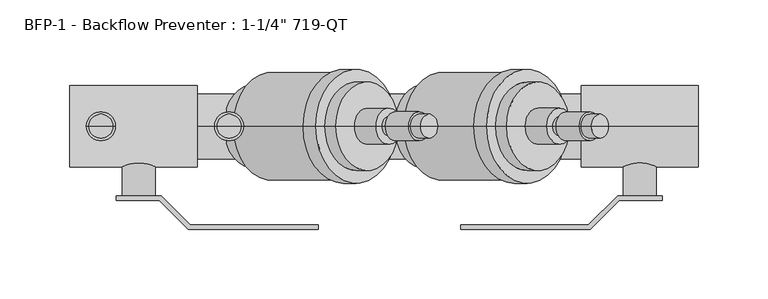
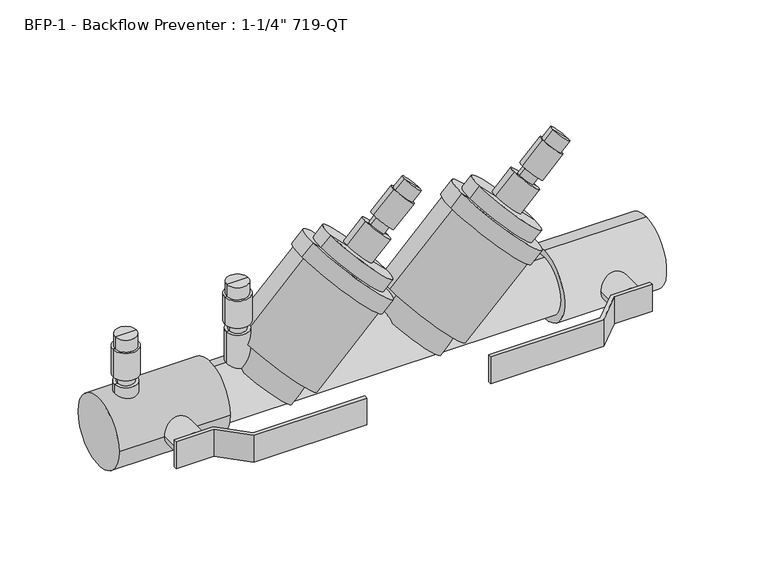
"""IFC4 building model written with IfcOpenShell, lengths in millimetres: valve geometry."""

from ifc_helpers import new_model, si_unit, point, frame, origin, origin_2d, place, context, project, spatial, polyline, circle_curve, trimmed, segment, composite_curve, outline, extrude, source, transform, mapped, element, save
from ifc_brep_helpers import plane_surface, cylinder_surface, advanced_brep


def valve_a7637290(model_context):
    return source(origin(), model_context, "Body", "SolidModel", [
        advanced_brep(
        [(386.2401701, 0.0, 119.9762218), (374.0270218, 0.0, 132.1893701), (380.1335959, 0.0, 126.0827959), (378.8763601, 0.0, 112.6124118), (366.6632118, 0.0, 124.8255601), (380.1335959, 0.0, 111.3551759), (365.4059759, 0.0, 126.0827959), (363.4303196, 0.0, 94.6518995), (348.7026995, 0.0, 109.3795196), (360.9158478, 0.0, 97.1663712), (351.2171712, 0.0, 106.8650478), (356.0665095, 0.0, 92.3170329), (346.3678329, 0.0, 102.0157095), (360.3770325, 0.0, 88.00651), (342.05731, 0.0, 106.3262325), (344.9309919, 0.0, 72.5604695), (326.6112695, 0.0, 90.8801919), (358.221771, 0.0, 59.2696904), (313.3204904, 0.0, 104.170971), (350.3191456, 0.0, 51.367065), (305.417865, 0.0, 96.2683456), (356.78493, 0.0, 44.9012806), (298.9520806, 0.0, 102.73413), (347.6250688, 0.0, 35.7414194), (289.7922194, 0.0, 93.5742688), (346.0086227, 0.0, 37.3578655), (291.4086655, 0.0, 91.9578227), (294.2823474, 0.0, -14.3684098), (239.6823902, 0.0, 40.2315474), (288.1757733, 0.0, -8.2618356), (245.7889644, 0.0, 34.1249733), (275.2442044, 0.0, -21.1934044), (232.8573956, 0.0, 21.1934044), (254.0508, 0.0, 0.0)],
        [
            (0, 1, circle_curve(frame((380.1335959, 0.0, 126.0827959), z_axis=(0.7071067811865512, 0.0, 0.7071067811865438), x_axis=(-0.7071067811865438, 0.0, 0.7071067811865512)), 8.636)),
            (1, 2),
            (2, 0),
            (1, 0, circle_curve(frame((380.1335959, 0.0, 126.0827959), z_axis=(0.7071067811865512, 0.0, 0.7071067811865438), x_axis=(-0.7071067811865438, 0.0, 0.7071067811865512)), 8.636)),
            (3, 4, circle_curve(frame((372.7697859, 0.0, 118.7189859), z_axis=(0.7071067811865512, 0.0, 0.7071067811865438), x_axis=(-0.7071067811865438, 0.0, 0.7071067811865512)), 8.636)),
            (4, 1),
            (0, 3),
            (4, 3, circle_curve(frame((372.7697859, 0.0, 118.7189859), z_axis=(0.7071067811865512, 0.0, 0.7071067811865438), x_axis=(-0.7071067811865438, 0.0, 0.7071067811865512)), 8.636)),
            (5, 6, circle_curve(frame((372.7697859, 0.0, 118.7189859), z_axis=(0.7071067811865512, 0.0, 0.7071067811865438), x_axis=(-0.7071067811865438, 0.0, 0.7071067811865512)), 10.414)),
            (6, 4),
            (3, 5),
            (6, 5, circle_curve(frame((372.7697859, 0.0, 118.7189859), z_axis=(0.7071067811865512, 0.0, 0.7071067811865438), x_axis=(-0.7071067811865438, 0.0, 0.7071067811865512)), 10.414)),
            (7, 8, circle_curve(frame((356.0665095, 0.0, 102.0157095), z_axis=(0.7071067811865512, 0.0, 0.7071067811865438), x_axis=(-0.7071067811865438, 0.0, 0.7071067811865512)), 10.414)),
            (8, 6),
            (5, 7),
            (8, 7, circle_curve(frame((356.0665095, 0.0, 102.0157095), z_axis=(0.7071067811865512, 0.0, 0.7071067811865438), x_axis=(-0.7071067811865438, 0.0, 0.7071067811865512)), 10.414)),
            (9, 10, circle_curve(frame((356.0665095, 0.0, 102.0157095), z_axis=(0.7071067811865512, 0.0, 0.7071067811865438), x_axis=(-0.7071067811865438, 0.0, 0.7071067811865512)), 6.858)),
            (10, 8),
            (7, 9),
            (10, 9, circle_curve(frame((356.0665095, 0.0, 102.0157095), z_axis=(0.7071067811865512, 0.0, 0.7071067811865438), x_axis=(-0.7071067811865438, 0.0, 0.7071067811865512)), 6.858)),
            (11, 12, circle_curve(frame((351.2171712, 0.0, 97.1663712), z_axis=(0.7071067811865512, 0.0, 0.7071067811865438), x_axis=(-0.7071067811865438, 0.0, 0.7071067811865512)), 6.858)),
            (12, 10),
            (9, 11),
            (12, 11, circle_curve(frame((351.2171712, 0.0, 97.1663712), z_axis=(0.7071067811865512, 0.0, 0.7071067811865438), x_axis=(-0.7071067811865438, 0.0, 0.7071067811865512)), 6.858)),
            (13, 14, circle_curve(frame((351.2171712, 0.0, 97.1663712), z_axis=(0.7071067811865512, 0.0, 0.7071067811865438), x_axis=(-0.7071067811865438, 0.0, 0.7071067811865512)), 12.954)),
            (14, 12),
            (11, 13),
            (14, 13, circle_curve(frame((351.2171712, 0.0, 97.1663712), z_axis=(0.7071067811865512, 0.0, 0.7071067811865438), x_axis=(-0.7071067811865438, 0.0, 0.7071067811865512)), 12.954)),
            (15, 16, circle_curve(frame((335.7711307, 0.0, 81.7203307), z_axis=(0.7071067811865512, 0.0, 0.7071067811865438), x_axis=(-0.7071067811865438, 0.0, 0.7071067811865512)), 12.954)),
            (16, 14),
            (13, 15),
            (16, 15, circle_curve(frame((335.7711307, 0.0, 81.7203307), z_axis=(0.7071067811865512, 0.0, 0.7071067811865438), x_axis=(-0.7071067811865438, 0.0, 0.7071067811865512)), 12.954)),
            (17, 18, circle_curve(frame((335.7711307, 0.0, 81.7203307), z_axis=(0.7071067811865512, 0.0, 0.7071067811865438), x_axis=(-0.7071067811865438, 0.0, 0.7071067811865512)), 31.75)),
            (18, 16),
            (15, 17),
            (18, 17, circle_curve(frame((335.7711307, 0.0, 81.7203307), z_axis=(0.7071067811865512, 0.0, 0.7071067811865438), x_axis=(-0.7071067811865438, 0.0, 0.7071067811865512)), 31.75)),
            (19, 20, circle_curve(frame((327.8685053, 0.0, 73.8177053), z_axis=(0.7071067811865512, 0.0, 0.7071067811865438), x_axis=(-0.7071067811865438, 0.0, 0.7071067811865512)), 31.75)),
            (20, 18),
            (17, 19),
            (20, 19, circle_curve(frame((327.8685053, 0.0, 73.8177053), z_axis=(0.7071067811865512, 0.0, 0.7071067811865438), x_axis=(-0.7071067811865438, 0.0, 0.7071067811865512)), 31.75)),
            (21, 22, circle_curve(frame((327.8685053, 0.0, 73.8177053), z_axis=(0.7071067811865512, 0.0, 0.7071067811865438), x_axis=(-0.7071067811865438, 0.0, 0.7071067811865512)), 40.894)),
            (22, 20),
            (19, 21),
            (22, 21, circle_curve(frame((327.8685053, 0.0, 73.8177053), z_axis=(0.7071067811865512, 0.0, 0.7071067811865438), x_axis=(-0.7071067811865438, 0.0, 0.7071067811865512)), 40.894)),
            (23, 24, circle_curve(frame((318.7086441, 0.0, 64.6578441), z_axis=(0.7071067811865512, 0.0, 0.7071067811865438), x_axis=(-0.7071067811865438, 0.0, 0.7071067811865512)), 40.894)),
            (24, 22),
            (21, 23),
            (24, 23, circle_curve(frame((318.7086441, 0.0, 64.6578441), z_axis=(0.7071067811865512, 0.0, 0.7071067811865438), x_axis=(-0.7071067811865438, 0.0, 0.7071067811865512)), 40.894)),
            (25, 26, circle_curve(frame((318.7086441, 0.0, 64.6578441), z_axis=(0.7071067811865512, 0.0, 0.7071067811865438), x_axis=(-0.7071067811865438, 0.0, 0.7071067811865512)), 38.608)),
            (26, 24),
            (23, 25),
            (26, 25, circle_curve(frame((318.7086441, 0.0, 64.6578441), z_axis=(0.7071067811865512, 0.0, 0.7071067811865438), x_axis=(-0.7071067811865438, 0.0, 0.7071067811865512)), 38.608)),
            (27, 28, circle_curve(frame((266.9823688, 0.0, 12.9315688), z_axis=(0.7071067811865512, 0.0, 0.7071067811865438), x_axis=(-0.7071067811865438, 0.0, 0.7071067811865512)), 38.608)),
            (28, 26),
            (25, 27),
            (28, 27, circle_curve(frame((266.9823688, 0.0, 12.9315688), z_axis=(0.7071067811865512, 0.0, 0.7071067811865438), x_axis=(-0.7071067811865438, 0.0, 0.7071067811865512)), 38.608)),
            (29, 30, circle_curve(frame((266.9823688, 0.0, 12.9315688), z_axis=(0.7071067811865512, 0.0, 0.7071067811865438), x_axis=(-0.7071067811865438, 0.0, 0.7071067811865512)), 29.972)),
            (30, 28),
            (27, 29),
            (30, 29, circle_curve(frame((266.9823688, 0.0, 12.9315688), z_axis=(0.7071067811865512, 0.0, 0.7071067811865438), x_axis=(-0.7071067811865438, 0.0, 0.7071067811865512)), 29.972)),
            (31, 32, circle_curve(frame((254.0508, 0.0, 0.0), z_axis=(0.7071067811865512, 0.0, 0.7071067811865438), x_axis=(-0.7071067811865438, 0.0, 0.7071067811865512)), 29.972)),
            (32, 30),
            (29, 31),
            (32, 31, circle_curve(frame((254.0508, 0.0, 0.0), z_axis=(0.7071067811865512, 0.0, 0.7071067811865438), x_axis=(-0.7071067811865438, 0.0, 0.7071067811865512)), 29.972)),
            (33, 32),
            (31, 33),
        ],
        [
            plane_surface(frame((380.1335959, 0.0, 126.0827959), z_axis=(0.7071067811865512, 0.0, 0.7071067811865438), x_axis=(-0.7071067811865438, 0.0, 0.7071067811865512))),
            cylinder_surface(frame((380.1335959, 0.0, 126.0827959), z_axis=(-0.7071067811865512, 0.0, -0.7071067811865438), x_axis=(-0.7071067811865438, 0.0, 0.7071067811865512)), 8.636),
            plane_surface(frame((372.7697859, 0.0, 118.7189859), z_axis=(0.7071067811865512, 0.0, 0.7071067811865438), x_axis=(-0.7071067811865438, 0.0, 0.7071067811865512))),
            cylinder_surface(frame((380.1335959, 0.0, 126.0827959), z_axis=(-0.7071067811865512, 0.0, -0.7071067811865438), x_axis=(-0.7071067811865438, 0.0, 0.7071067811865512)), 10.414),
            plane_surface(frame((356.0665095, 0.0, 102.0157095), z_axis=(-0.7071067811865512, 0.0, -0.7071067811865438), x_axis=(-0.7071067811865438, 0.0, 0.7071067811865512))),
            cylinder_surface(frame((380.1335959, 0.0, 126.0827959), z_axis=(-0.7071067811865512, 0.0, -0.7071067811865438), x_axis=(-0.7071067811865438, 0.0, 0.7071067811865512)), 6.858),
            plane_surface(frame((351.2171712, 0.0, 97.1663712), z_axis=(0.7071067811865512, 0.0, 0.7071067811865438), x_axis=(-0.7071067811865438, 0.0, 0.7071067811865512))),
            cylinder_surface(frame((380.1335959, 0.0, 126.0827959), z_axis=(-0.7071067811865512, 0.0, -0.7071067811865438), x_axis=(-0.7071067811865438, 0.0, 0.7071067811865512)), 12.954),
            plane_surface(frame((335.7711307, 0.0, 81.7203307), z_axis=(0.7071067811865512, 0.0, 0.7071067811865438), x_axis=(-0.7071067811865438, 0.0, 0.7071067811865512))),
            cylinder_surface(frame((380.1335959, 0.0, 126.0827959), z_axis=(-0.7071067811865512, 0.0, -0.7071067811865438), x_axis=(-0.7071067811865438, 0.0, 0.7071067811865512)), 31.75),
            plane_surface(frame((327.8685053, 0.0, 73.8177053), z_axis=(0.7071067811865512, 0.0, 0.7071067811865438), x_axis=(-0.7071067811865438, 0.0, 0.7071067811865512))),
            cylinder_surface(frame((380.1335959, 0.0, 126.0827959), z_axis=(-0.7071067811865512, 0.0, -0.7071067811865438), x_axis=(-0.7071067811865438, 0.0, 0.7071067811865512)), 40.894),
            plane_surface(frame((318.7086441, 0.0, 64.6578441), z_axis=(-0.7071067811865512, 0.0, -0.7071067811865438), x_axis=(-0.7071067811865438, 0.0, 0.7071067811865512))),
            cylinder_surface(frame((380.1335959, 0.0, 126.0827959), z_axis=(-0.7071067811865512, 0.0, -0.7071067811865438), x_axis=(-0.7071067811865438, 0.0, 0.7071067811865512)), 38.608),
            plane_surface(frame((266.9823688, 0.0, 12.9315688), z_axis=(-0.7071067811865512, 0.0, -0.7071067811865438), x_axis=(-0.7071067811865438, 0.0, 0.7071067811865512))),
            cylinder_surface(frame((380.1335959, 0.0, 126.0827959), z_axis=(-0.7071067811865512, 0.0, -0.7071067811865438), x_axis=(-0.7071067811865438, 0.0, 0.7071067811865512)), 29.972),
            plane_surface(frame((254.0508, 0.0, 0.0), z_axis=(-0.7071067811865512, 0.0, -0.7071067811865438), x_axis=(-0.7071067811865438, 0.0, 0.7071067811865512))),
        ],
        [
            (0, [[1, 2, 3]]),
            (0, [[4, -3, -2]]),
            (1, [[5, 6, -1, 7]]),
            (1, [[8, -7, -4, -6]]),
            (2, [[9, 10, -5, 11]]),
            (2, [[12, -11, -8, -10]]),
            (3, [[13, 14, -9, 15]]),
            (3, [[16, -15, -12, -14]]),
            (4, [[17, 18, -13, 19]]),
            (4, [[20, -19, -16, -18]]),
            (5, [[21, 22, -17, 23]]),
            (5, [[24, -23, -20, -22]]),
            (6, [[25, 26, -21, 27]]),
            (6, [[28, -27, -24, -26]]),
            (7, [[29, 30, -25, 31]]),
            (7, [[32, -31, -28, -30]]),
            (8, [[33, 34, -29, 35]]),
            (8, [[36, -35, -32, -34]]),
            (9, [[37, 38, -33, 39]]),
            (9, [[40, -39, -36, -38]]),
            (10, [[41, 42, -37, 43]]),
            (10, [[44, -43, -40, -42]]),
            (11, [[45, 46, -41, 47]]),
            (11, [[48, -47, -44, -46]]),
            (12, [[49, 50, -45, 51]]),
            (12, [[52, -51, -48, -50]]),
            (13, [[53, 54, -49, 55]]),
            (13, [[56, -55, -52, -54]]),
            (14, [[57, 58, -53, 59]]),
            (14, [[60, -59, -56, -58]]),
            (15, [[61, 62, -57, 63]]),
            (15, [[64, -63, -60, -62]]),
            (16, [[65, -61, 66]]),
            (16, [[-66, -64, -65]]),
        ],
    ),
        advanced_brep(
        [(263.8121701, 0.0, 119.9762218), (251.5990218, 0.0, 132.1893701), (257.7055959, 0.0, 126.0827959), (256.4483601, 0.0, 112.6124118), (244.2352118, 0.0, 124.8255601), (257.7055959, 0.0, 111.3551759), (242.9779759, 0.0, 126.0827959), (241.0023196, 0.0, 94.6518995), (226.2746995, 0.0, 109.3795196), (238.4878478, 0.0, 97.1663712), (228.7891712, 0.0, 106.8650478), (233.6385095, 0.0, 92.3170329), (223.9398329, 0.0, 102.0157095), (237.9490325, 0.0, 88.00651), (219.62931, 0.0, 106.3262325), (222.5029919, 0.0, 72.5604695), (204.1832695, 0.0, 90.8801919), (235.793771, 0.0, 59.2696904), (190.8924904, 0.0, 104.170971), (227.8911456, 0.0, 51.367065), (182.989865, 0.0, 96.2683456), (234.35693, 0.0, 44.9012806), (176.5240806, 0.0, 102.73413), (225.1970688, 0.0, 35.7414194), (167.3642194, 0.0, 93.5742688), (223.5806227, 0.0, 37.3578655), (168.9806655, 0.0, 91.9578227), (171.8543474, 0.0, -14.3684098), (117.2543902, 0.0, 40.2315474), (165.7477733, 0.0, -8.2618356), (123.3609644, 0.0, 34.1249733), (152.8162044, 0.0, -21.1934044), (110.4293956, 0.0, 21.1934044), (131.6228, 0.0, 0.0)],
        [
            (0, 1, circle_curve(frame((257.7055959, 0.0, 126.0827959), z_axis=(0.707106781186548, 0.0, 0.707106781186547), x_axis=(-0.707106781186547, 0.0, 0.707106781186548)), 8.636)),
            (1, 2),
            (2, 0),
            (1, 0, circle_curve(frame((257.7055959, 0.0, 126.0827959), z_axis=(0.707106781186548, 0.0, 0.707106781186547), x_axis=(-0.707106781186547, 0.0, 0.707106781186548)), 8.636)),
            (3, 4, circle_curve(frame((250.3417859, 0.0, 118.7189859), z_axis=(0.707106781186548, 0.0, 0.707106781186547), x_axis=(-0.707106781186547, 0.0, 0.707106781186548)), 8.636)),
            (4, 1),
            (0, 3),
            (4, 3, circle_curve(frame((250.3417859, 0.0, 118.7189859), z_axis=(0.707106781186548, 0.0, 0.707106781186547), x_axis=(-0.707106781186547, 0.0, 0.707106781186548)), 8.636)),
            (5, 6, circle_curve(frame((250.3417859, 0.0, 118.7189859), z_axis=(0.707106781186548, 0.0, 0.707106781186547), x_axis=(-0.707106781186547, 0.0, 0.707106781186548)), 10.414)),
            (6, 4),
            (3, 5),
            (6, 5, circle_curve(frame((250.3417859, 0.0, 118.7189859), z_axis=(0.707106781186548, 0.0, 0.707106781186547), x_axis=(-0.707106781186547, 0.0, 0.707106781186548)), 10.414)),
            (7, 8, circle_curve(frame((233.6385095, 0.0, 102.0157095), z_axis=(0.707106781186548, 0.0, 0.707106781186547), x_axis=(-0.707106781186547, 0.0, 0.707106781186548)), 10.414)),
            (8, 6),
            (5, 7),
            (8, 7, circle_curve(frame((233.6385095, 0.0, 102.0157095), z_axis=(0.707106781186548, 0.0, 0.707106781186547), x_axis=(-0.707106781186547, 0.0, 0.707106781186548)), 10.414)),
            (9, 10, circle_curve(frame((233.6385095, 0.0, 102.0157095), z_axis=(0.707106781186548, 0.0, 0.707106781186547), x_axis=(-0.707106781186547, 0.0, 0.707106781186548)), 6.858)),
            (10, 8),
            (7, 9),
            (10, 9, circle_curve(frame((233.6385095, 0.0, 102.0157095), z_axis=(0.707106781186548, 0.0, 0.707106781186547), x_axis=(-0.707106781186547, 0.0, 0.707106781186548)), 6.858)),
            (11, 12, circle_curve(frame((228.7891712, 0.0, 97.1663712), z_axis=(0.707106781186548, 0.0, 0.707106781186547), x_axis=(-0.707106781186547, 0.0, 0.707106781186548)), 6.858)),
            (12, 10),
            (9, 11),
            (12, 11, circle_curve(frame((228.7891712, 0.0, 97.1663712), z_axis=(0.707106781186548, 0.0, 0.707106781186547), x_axis=(-0.707106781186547, 0.0, 0.707106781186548)), 6.858)),
            (13, 14, circle_curve(frame((228.7891712, 0.0, 97.1663712), z_axis=(0.707106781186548, 0.0, 0.707106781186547), x_axis=(-0.707106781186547, 0.0, 0.707106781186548)), 12.954)),
            (14, 12),
            (11, 13),
            (14, 13, circle_curve(frame((228.7891712, 0.0, 97.1663712), z_axis=(0.707106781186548, 0.0, 0.707106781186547), x_axis=(-0.707106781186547, 0.0, 0.707106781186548)), 12.954)),
            (15, 16, circle_curve(frame((213.3431307, 0.0, 81.7203307), z_axis=(0.707106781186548, 0.0, 0.707106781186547), x_axis=(-0.707106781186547, 0.0, 0.707106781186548)), 12.954)),
            (16, 14),
            (13, 15),
            (16, 15, circle_curve(frame((213.3431307, 0.0, 81.7203307), z_axis=(0.707106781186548, 0.0, 0.707106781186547), x_axis=(-0.707106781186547, 0.0, 0.707106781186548)), 12.954)),
            (17, 18, circle_curve(frame((213.3431307, 0.0, 81.7203307), z_axis=(0.707106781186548, 0.0, 0.707106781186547), x_axis=(-0.707106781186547, 0.0, 0.707106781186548)), 31.75)),
            (18, 16),
            (15, 17),
            (18, 17, circle_curve(frame((213.3431307, 0.0, 81.7203307), z_axis=(0.707106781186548, 0.0, 0.707106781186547), x_axis=(-0.707106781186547, 0.0, 0.707106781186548)), 31.75)),
            (19, 20, circle_curve(frame((205.4405053, 0.0, 73.8177053), z_axis=(0.707106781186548, 0.0, 0.707106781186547), x_axis=(-0.707106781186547, 0.0, 0.707106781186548)), 31.75)),
            (20, 18),
            (17, 19),
            (20, 19, circle_curve(frame((205.4405053, 0.0, 73.8177053), z_axis=(0.707106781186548, 0.0, 0.707106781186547), x_axis=(-0.707106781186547, 0.0, 0.707106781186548)), 31.75)),
            (21, 22, circle_curve(frame((205.4405053, 0.0, 73.8177053), z_axis=(0.707106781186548, 0.0, 0.707106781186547), x_axis=(-0.707106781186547, 0.0, 0.707106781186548)), 40.894)),
            (22, 20),
            (19, 21),
            (22, 21, circle_curve(frame((205.4405053, 0.0, 73.8177053), z_axis=(0.707106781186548, 0.0, 0.707106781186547), x_axis=(-0.707106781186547, 0.0, 0.707106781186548)), 40.894)),
            (23, 24, circle_curve(frame((196.2806441, 0.0, 64.6578441), z_axis=(0.707106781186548, 0.0, 0.707106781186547), x_axis=(-0.707106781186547, 0.0, 0.707106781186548)), 40.894)),
            (24, 22),
            (21, 23),
            (24, 23, circle_curve(frame((196.2806441, 0.0, 64.6578441), z_axis=(0.707106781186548, 0.0, 0.707106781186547), x_axis=(-0.707106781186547, 0.0, 0.707106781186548)), 40.894)),
            (25, 26, circle_curve(frame((196.2806441, 0.0, 64.6578441), z_axis=(0.707106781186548, 0.0, 0.707106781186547), x_axis=(-0.707106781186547, 0.0, 0.707106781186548)), 38.608)),
            (26, 24),
            (23, 25),
            (26, 25, circle_curve(frame((196.2806441, 0.0, 64.6578441), z_axis=(0.707106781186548, 0.0, 0.707106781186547), x_axis=(-0.707106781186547, 0.0, 0.707106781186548)), 38.608)),
            (27, 28, circle_curve(frame((144.5543688, 0.0, 12.9315688), z_axis=(0.707106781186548, 0.0, 0.707106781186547), x_axis=(-0.707106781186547, 0.0, 0.707106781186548)), 38.608)),
            (28, 26),
            (25, 27),
            (28, 27, circle_curve(frame((144.5543688, 0.0, 12.9315688), z_axis=(0.707106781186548, 0.0, 0.707106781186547), x_axis=(-0.707106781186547, 0.0, 0.707106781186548)), 38.608)),
            (29, 30, circle_curve(frame((144.5543688, 0.0, 12.9315688), z_axis=(0.707106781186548, 0.0, 0.707106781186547), x_axis=(-0.707106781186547, 0.0, 0.707106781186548)), 29.972)),
            (30, 28),
            (27, 29),
            (30, 29, circle_curve(frame((144.5543688, 0.0, 12.9315688), z_axis=(0.707106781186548, 0.0, 0.707106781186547), x_axis=(-0.707106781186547, 0.0, 0.707106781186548)), 29.972)),
            (31, 32, circle_curve(frame((131.6228, 0.0, 0.0), z_axis=(0.707106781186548, 0.0, 0.707106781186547), x_axis=(-0.707106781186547, 0.0, 0.707106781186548)), 29.972)),
            (32, 30),
            (29, 31),
            (32, 31, circle_curve(frame((131.6228, 0.0, 0.0), z_axis=(0.707106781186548, 0.0, 0.707106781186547), x_axis=(-0.707106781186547, 0.0, 0.707106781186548)), 29.972)),
            (33, 32),
            (31, 33),
        ],
        [
            plane_surface(frame((257.7055959, 0.0, 126.0827959), z_axis=(0.707106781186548, 0.0, 0.707106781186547), x_axis=(-0.707106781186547, 0.0, 0.707106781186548))),
            cylinder_surface(frame((257.7055959, 0.0, 126.0827959), z_axis=(-0.707106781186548, 0.0, -0.707106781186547), x_axis=(-0.707106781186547, 0.0, 0.707106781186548)), 8.636),
            plane_surface(frame((250.3417859, 0.0, 118.7189859), z_axis=(0.707106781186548, 0.0, 0.707106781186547), x_axis=(-0.707106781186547, 0.0, 0.707106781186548))),
            cylinder_surface(frame((257.7055959, 0.0, 126.0827959), z_axis=(-0.707106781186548, 0.0, -0.707106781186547), x_axis=(-0.707106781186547, 0.0, 0.707106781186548)), 10.414),
            plane_surface(frame((233.6385095, 0.0, 102.0157095), z_axis=(-0.707106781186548, 0.0, -0.707106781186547), x_axis=(-0.707106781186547, 0.0, 0.707106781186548))),
            cylinder_surface(frame((257.7055959, 0.0, 126.0827959), z_axis=(-0.707106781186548, 0.0, -0.707106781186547), x_axis=(-0.707106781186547, 0.0, 0.707106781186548)), 6.858),
            plane_surface(frame((228.7891712, 0.0, 97.1663712), z_axis=(0.707106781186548, 0.0, 0.707106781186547), x_axis=(-0.707106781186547, 0.0, 0.707106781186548))),
            cylinder_surface(frame((257.7055959, 0.0, 126.0827959), z_axis=(-0.707106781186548, 0.0, -0.707106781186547), x_axis=(-0.707106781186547, 0.0, 0.707106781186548)), 12.954),
            plane_surface(frame((213.3431307, 0.0, 81.7203307), z_axis=(0.707106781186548, 0.0, 0.707106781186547), x_axis=(-0.707106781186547, 0.0, 0.707106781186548))),
            cylinder_surface(frame((257.7055959, 0.0, 126.0827959), z_axis=(-0.707106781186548, 0.0, -0.707106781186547), x_axis=(-0.707106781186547, 0.0, 0.707106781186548)), 31.75),
            plane_surface(frame((205.4405053, 0.0, 73.8177053), z_axis=(0.707106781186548, 0.0, 0.707106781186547), x_axis=(-0.707106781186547, 0.0, 0.707106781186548))),
            cylinder_surface(frame((257.7055959, 0.0, 126.0827959), z_axis=(-0.707106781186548, 0.0, -0.707106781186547), x_axis=(-0.707106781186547, 0.0, 0.707106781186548)), 40.894),
            plane_surface(frame((196.2806441, 0.0, 64.6578441), z_axis=(-0.707106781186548, 0.0, -0.707106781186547), x_axis=(-0.707106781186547, 0.0, 0.707106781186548))),
            cylinder_surface(frame((257.7055959, 0.0, 126.0827959), z_axis=(-0.707106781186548, 0.0, -0.707106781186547), x_axis=(-0.707106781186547, 0.0, 0.707106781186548)), 38.608),
            plane_surface(frame((144.5543688, 0.0, 12.9315688), z_axis=(-0.707106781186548, 0.0, -0.707106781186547), x_axis=(-0.707106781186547, 0.0, 0.707106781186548))),
            cylinder_surface(frame((257.7055959, 0.0, 126.0827959), z_axis=(-0.707106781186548, 0.0, -0.707106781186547), x_axis=(-0.707106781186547, 0.0, 0.707106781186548)), 29.972),
            plane_surface(frame((131.6228, 0.0, 0.0), z_axis=(-0.707106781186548, 0.0, -0.707106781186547), x_axis=(-0.707106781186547, 0.0, 0.707106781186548))),
        ],
        [
            (0, [[1, 2, 3]]),
            (0, [[4, -3, -2]]),
            (1, [[5, 6, -1, 7]]),
            (1, [[8, -7, -4, -6]]),
            (2, [[9, 10, -5, 11]]),
            (2, [[12, -11, -8, -10]]),
            (3, [[13, 14, -9, 15]]),
            (3, [[16, -15, -12, -14]]),
            (4, [[17, 18, -13, 19]]),
            (4, [[20, -19, -16, -18]]),
            (5, [[21, 22, -17, 23]]),
            (5, [[24, -23, -20, -22]]),
            (6, [[25, 26, -21, 27]]),
            (6, [[28, -27, -24, -26]]),
            (7, [[29, 30, -25, 31]]),
            (7, [[32, -31, -28, -30]]),
            (8, [[33, 34, -29, 35]]),
            (8, [[36, -35, -32, -34]]),
            (9, [[37, 38, -33, 39]]),
            (9, [[40, -39, -36, -38]]),
            (10, [[41, 42, -37, 43]]),
            (10, [[44, -43, -40, -42]]),
            (11, [[45, 46, -41, 47]]),
            (11, [[48, -47, -44, -46]]),
            (12, [[49, 50, -45, 51]]),
            (12, [[52, -51, -48, -50]]),
            (13, [[53, 54, -49, 55]]),
            (13, [[56, -55, -52, -54]]),
            (14, [[57, 58, -53, 59]]),
            (14, [[60, -59, -56, -58]]),
            (15, [[61, 62, -57, 63]]),
            (15, [[64, -63, -60, -62]]),
            (16, [[65, -61, 66]]),
            (16, [[-66, -64, -65]]),
        ],
    ),
        advanced_brep(
        [(122.936, 0.0, 91.186), (105.664, 0.0, 91.186), (114.3, 0.0, 91.186), (122.936, 0.0, 80.772), (105.664, 0.0, 80.772), (124.714, 0.0, 80.772), (103.886, 0.0, 80.772), (124.714, 0.0, 57.15), (103.886, 0.0, 57.15), (121.158, 0.0, 57.15), (107.442, 0.0, 57.15), (121.158, 0.0, 50.292), (107.442, 0.0, 50.292), (123.698, 0.0, 50.292), (104.902, 0.0, 50.292), (123.698, 0.0, 0.0), (104.902, 0.0, 0.0), (114.3, 0.0, 0.0)],
        [
            (0, 1, circle_curve(frame((114.3, 0.0, 91.186), z_axis=(0.0, 0.0, 1.0), x_axis=(-1.0, 0.0, 0.0)), 8.636)),
            (1, 2),
            (2, 0),
            (1, 0, circle_curve(frame((114.3, 0.0, 91.186), z_axis=(0.0, 0.0, 1.0), x_axis=(-1.0, 0.0, 0.0)), 8.636)),
            (3, 4, circle_curve(frame((114.3, 0.0, 80.772), z_axis=(0.0, 0.0, 1.0), x_axis=(-1.0, 0.0, 0.0)), 8.636)),
            (4, 1),
            (0, 3),
            (4, 3, circle_curve(frame((114.3, 0.0, 80.772), z_axis=(0.0, 0.0, 1.0), x_axis=(-1.0, 0.0, 0.0)), 8.636)),
            (5, 6, circle_curve(frame((114.3, 0.0, 80.772), z_axis=(0.0, 0.0, 1.0), x_axis=(-1.0, 0.0, 0.0)), 10.414)),
            (6, 4),
            (3, 5),
            (6, 5, circle_curve(frame((114.3, 0.0, 80.772), z_axis=(0.0, 0.0, 1.0), x_axis=(-1.0, 0.0, 0.0)), 10.414)),
            (7, 8, circle_curve(frame((114.3, 0.0, 57.15), z_axis=(0.0, 0.0, 1.0), x_axis=(-1.0, 0.0, 0.0)), 10.414)),
            (8, 6),
            (5, 7),
            (8, 7, circle_curve(frame((114.3, 0.0, 57.15), z_axis=(0.0, 0.0, 1.0), x_axis=(-1.0, 0.0, 0.0)), 10.414)),
            (9, 10, circle_curve(frame((114.3, 0.0, 57.15), z_axis=(0.0, 0.0, 1.0), x_axis=(-1.0, 0.0, 0.0)), 6.858)),
            (10, 8),
            (7, 9),
            (10, 9, circle_curve(frame((114.3, 0.0, 57.15), z_axis=(0.0, 0.0, 1.0), x_axis=(-1.0, 0.0, 0.0)), 6.858)),
            (11, 12, circle_curve(frame((114.3, 0.0, 50.292), z_axis=(0.0, 0.0, 1.0), x_axis=(-1.0, 0.0, 0.0)), 6.858)),
            (12, 10),
            (9, 11),
            (12, 11, circle_curve(frame((114.3, 0.0, 50.292), z_axis=(0.0, 0.0, 1.0), x_axis=(-1.0, 0.0, 0.0)), 6.858)),
            (13, 14, circle_curve(frame((114.3, 0.0, 50.292), z_axis=(0.0, 0.0, 1.0), x_axis=(-1.0, 0.0, 0.0)), 9.398)),
            (14, 12),
            (11, 13),
            (14, 13, circle_curve(frame((114.3, 0.0, 50.292), z_axis=(0.0, 0.0, 1.0), x_axis=(-1.0, 0.0, 0.0)), 9.398)),
            (15, 16, circle_curve(frame((114.3, 0.0, 0.0), z_axis=(0.0, 0.0, 1.0), x_axis=(-1.0, 0.0, 0.0)), 9.398)),
            (16, 14),
            (13, 15),
            (16, 15, circle_curve(frame((114.3, 0.0, 0.0), z_axis=(0.0, 0.0, 1.0), x_axis=(-1.0, 0.0, 0.0)), 9.398)),
            (17, 16),
            (15, 17),
        ],
        [
            plane_surface(frame((114.3, 0.0, 91.186), z_axis=(0.0, 0.0, 1.0), x_axis=(-1.0, 0.0, 0.0))),
            cylinder_surface(frame((114.3, 0.0, 91.186), z_axis=(0.0, 0.0, -1.0), x_axis=(-1.0, 0.0, 0.0)), 8.636),
            plane_surface(frame((114.3, 0.0, 80.772), z_axis=(0.0, 0.0, 1.0), x_axis=(-1.0, 0.0, 0.0))),
            cylinder_surface(frame((114.3, 0.0, 91.186), z_axis=(0.0, 0.0, -1.0), x_axis=(-1.0, 0.0, 0.0)), 10.414),
            plane_surface(frame((114.3, 0.0, 57.15), z_axis=(0.0, 0.0, -1.0), x_axis=(-1.0, 0.0, 0.0))),
            cylinder_surface(frame((114.3, 0.0, 91.186), z_axis=(0.0, 0.0, -1.0), x_axis=(-1.0, 0.0, 0.0)), 6.858),
            plane_surface(frame((114.3, 0.0, 50.292), z_axis=(0.0, 0.0, 1.0), x_axis=(-1.0, 0.0, 0.0))),
            cylinder_surface(frame((114.3, 0.0, 91.186), z_axis=(0.0, 0.0, -1.0), x_axis=(-1.0, 0.0, 0.0)), 9.398),
            plane_surface(frame((114.3, 0.0, 0.0), z_axis=(0.0, 0.0, -1.0), x_axis=(-1.0, 0.0, 0.0))),
        ],
        [
            (0, [[1, 2, 3]]),
            (0, [[4, -3, -2]]),
            (1, [[5, 6, -1, 7]]),
            (1, [[8, -7, -4, -6]]),
            (2, [[9, 10, -5, 11]]),
            (2, [[12, -11, -8, -10]]),
            (3, [[13, 14, -9, 15]]),
            (3, [[16, -15, -12, -14]]),
            (4, [[17, 18, -13, 19]]),
            (4, [[20, -19, -16, -18]]),
            (5, [[21, 22, -17, 23]]),
            (5, [[24, -23, -20, -22]]),
            (6, [[25, 26, -21, 27]]),
            (6, [[28, -27, -24, -26]]),
            (7, [[29, 30, -25, 31]]),
            (7, [[32, -31, -28, -30]]),
            (8, [[33, -29, 34]]),
            (8, [[-34, -32, -33]]),
        ],
    ),
        advanced_brep(
        [(30.988, 0.0, 77.724), (13.716, 0.0, 77.724), (22.352, 0.0, 77.724), (30.988, 0.0, 67.31), (13.716, 0.0, 67.31), (32.766, 0.0, 67.31), (11.938, 0.0, 67.31), (32.766, 0.0, 43.688), (11.938, 0.0, 43.688), (29.21, 0.0, 43.688), (15.494, 0.0, 43.688), (29.21, 0.0, 36.83), (15.494, 0.0, 36.83), (31.75, 0.0, 36.83), (12.954, 0.0, 36.83), (31.75, 0.0, 0.0), (12.954, 0.0, 0.0), (22.352, 0.0, 0.0)],
        [
            (0, 1, circle_curve(frame((22.352, 0.0, 77.724), z_axis=(0.0, 0.0, 1.0), x_axis=(-1.0, 0.0, 0.0)), 8.636)),
            (1, 2),
            (2, 0),
            (1, 0, circle_curve(frame((22.352, 0.0, 77.724), z_axis=(0.0, 0.0, 1.0), x_axis=(-1.0, 0.0, 0.0)), 8.636)),
            (3, 4, circle_curve(frame((22.352, 0.0, 67.31), z_axis=(0.0, 0.0, 1.0), x_axis=(-1.0, 0.0, 0.0)), 8.636)),
            (4, 1),
            (0, 3),
            (4, 3, circle_curve(frame((22.352, 0.0, 67.31), z_axis=(0.0, 0.0, 1.0), x_axis=(-1.0, 0.0, 0.0)), 8.636)),
            (5, 6, circle_curve(frame((22.352, 0.0, 67.31), z_axis=(0.0, 0.0, 1.0), x_axis=(-1.0, 0.0, 0.0)), 10.414)),
            (6, 4),
            (3, 5),
            (6, 5, circle_curve(frame((22.352, 0.0, 67.31), z_axis=(0.0, 0.0, 1.0), x_axis=(-1.0, 0.0, 0.0)), 10.414)),
            (7, 8, circle_curve(frame((22.352, 0.0, 43.688), z_axis=(0.0, 0.0, 1.0), x_axis=(-1.0, 0.0, 0.0)), 10.414)),
            (8, 6),
            (5, 7),
            (8, 7, circle_curve(frame((22.352, 0.0, 43.688), z_axis=(0.0, 0.0, 1.0), x_axis=(-1.0, 0.0, 0.0)), 10.414)),
            (9, 10, circle_curve(frame((22.352, 0.0, 43.688), z_axis=(0.0, 0.0, 1.0), x_axis=(-1.0, 0.0, 0.0)), 6.858)),
            (10, 8),
            (7, 9),
            (10, 9, circle_curve(frame((22.352, 0.0, 43.688), z_axis=(0.0, 0.0, 1.0), x_axis=(-1.0, 0.0, 0.0)), 6.858)),
            (11, 12, circle_curve(frame((22.352, 0.0, 36.83), z_axis=(0.0, 0.0, 1.0), x_axis=(-1.0, 0.0, 0.0)), 6.858)),
            (12, 10),
            (9, 11),
            (12, 11, circle_curve(frame((22.352, 0.0, 36.83), z_axis=(0.0, 0.0, 1.0), x_axis=(-1.0, 0.0, 0.0)), 6.858)),
            (13, 14, circle_curve(frame((22.352, 0.0, 36.83), z_axis=(0.0, 0.0, 1.0), x_axis=(-1.0, 0.0, 0.0)), 9.398)),
            (14, 12),
            (11, 13),
            (14, 13, circle_curve(frame((22.352, 0.0, 36.83), z_axis=(0.0, 0.0, 1.0), x_axis=(-1.0, 0.0, 0.0)), 9.398)),
            (15, 16, circle_curve(frame((22.352, 0.0, 0.0), z_axis=(0.0, 0.0, 1.0), x_axis=(-1.0, 0.0, 0.0)), 9.398)),
            (16, 14),
            (13, 15),
            (16, 15, circle_curve(frame((22.352, 0.0, 0.0), z_axis=(0.0, 0.0, 1.0), x_axis=(-1.0, 0.0, 0.0)), 9.398)),
            (17, 16),
            (15, 17),
        ],
        [
            plane_surface(frame((22.352, 0.0, 77.724), z_axis=(0.0, 0.0, 1.0), x_axis=(-1.0, 0.0, 0.0))),
            cylinder_surface(frame((22.352, 0.0, 77.724), z_axis=(0.0, 0.0, -1.0), x_axis=(-1.0, 0.0, 0.0)), 8.636),
            plane_surface(frame((22.352, 0.0, 67.31), z_axis=(0.0, 0.0, 1.0), x_axis=(-1.0, 0.0, 0.0))),
            cylinder_surface(frame((22.352, 0.0, 77.724), z_axis=(0.0, 0.0, -1.0), x_axis=(-1.0, 0.0, 0.0)), 10.414),
            plane_surface(frame((22.352, 0.0, 43.688), z_axis=(0.0, 0.0, -1.0), x_axis=(-1.0, 0.0, 0.0))),
            cylinder_surface(frame((22.352, 0.0, 77.724), z_axis=(0.0, 0.0, -1.0), x_axis=(-1.0, 0.0, 0.0)), 6.858),
            plane_surface(frame((22.352, 0.0, 36.83), z_axis=(0.0, 0.0, 1.0), x_axis=(-1.0, 0.0, 0.0))),
            cylinder_surface(frame((22.352, 0.0, 77.724), z_axis=(0.0, 0.0, -1.0), x_axis=(-1.0, 0.0, 0.0)), 9.398),
            plane_surface(frame((22.352, 0.0, 0.0), z_axis=(0.0, 0.0, -1.0), x_axis=(-1.0, 0.0, 0.0))),
        ],
        [
            (0, [[1, 2, 3]]),
            (0, [[4, -3, -2]]),
            (1, [[5, 6, -1, 7]]),
            (1, [[8, -7, -4, -6]]),
            (2, [[9, 10, -5, 11]]),
            (2, [[12, -11, -8, -10]]),
            (3, [[13, 14, -9, 15]]),
            (3, [[16, -15, -12, -14]]),
            (4, [[17, 18, -13, 19]]),
            (4, [[20, -19, -16, -18]]),
            (5, [[21, 22, -17, 23]]),
            (5, [[24, -23, -20, -22]]),
            (6, [[25, 26, -21, 27]]),
            (6, [[28, -27, -24, -26]]),
            (7, [[29, 30, -25, 31]]),
            (7, [[32, -31, -28, -30]]),
            (8, [[33, -29, 34]]),
            (8, [[-34, -32, -33]]),
        ],
    ),
        advanced_brep(
        [(91.4908, 0.0, 23.368), (91.4908, 0.0, -23.368), (91.4908, 0.0, 0.0), (366.8268, 0.0, 23.368), (366.8268, 0.0, -23.368), (366.8268, 0.0, 0.0)],
        [
            (0, 1, circle_curve(frame((91.4908, 0.0, 0.0), z_axis=(-1.0, 0.0, 0.0), x_axis=(0.0, 0.0, -1.0)), 23.368)),
            (1, 2),
            (2, 0),
            (1, 0, circle_curve(frame((91.4908, 0.0, 0.0), z_axis=(-1.0, 0.0, 0.0), x_axis=(0.0, 0.0, -1.0)), 23.368)),
            (3, 4, circle_curve(frame((366.8268, 0.0, 0.0), z_axis=(-1.0, 0.0, 0.0), x_axis=(0.0, 0.0, -1.0)), 23.368)),
            (4, 1),
            (0, 3),
            (4, 3, circle_curve(frame((366.8268, 0.0, 0.0), z_axis=(-1.0, 0.0, 0.0), x_axis=(0.0, 0.0, -1.0)), 23.368)),
            (5, 4),
            (3, 5),
        ],
        [
            plane_surface(frame((91.4908, 0.0, 0.0), z_axis=(-1.0, 0.0, 0.0), x_axis=(0.0, 0.0, -1.0))),
            cylinder_surface(frame((91.4908, 0.0, 0.0), z_axis=(1.0, 0.0, 0.0), x_axis=(0.0, 0.0, -1.0)), 23.368),
            plane_surface(frame((366.8268, 0.0, 0.0), z_axis=(1.0, 0.0, 0.0), x_axis=(0.0, 0.0, -1.0))),
        ],
        [
            (0, [[1, 2, 3]]),
            (0, [[4, -3, -2]]),
            (1, [[5, 6, -1, 7]]),
            (1, [[8, -7, -4, -6]]),
            (2, [[9, -5, 10]]),
            (2, [[-10, -8, -9]]),
        ],
    ),
        extrude(outline(polyline([(392.7422771, -50.038), (408.7368, -50.038), (424.9928, -50.038), (424.9928, -53.086), (394.0048, -53.086), (373.1768, -73.914), (280.2128, -73.914), (280.2128, -70.866), (371.9142771, -70.866), (392.7422771, -50.038)])), frame((0.0, 0.0, -11.684), z_axis=(0.0, 0.0, 1.0), x_axis=(1.0, 0.0, 0.0)), (0.0, 0.0, 1.0), 23.368),
        extrude(outline(polyline([(33.274, -50.038), (49.53, -50.038), (65.5245229, -50.038), (86.3525229, -70.866), (178.054, -70.866), (178.054, -73.914), (85.09, -73.914), (64.262, -53.086), (33.274, -53.086), (33.274, -50.038)])), frame((0.0, 0.0, -11.684), z_axis=(0.0, 0.0, 1.0), x_axis=(1.0, 0.0, 0.0)), (0.0, 0.0, 1.0), 23.368),
        advanced_brep(
        [(420.6748, -50.038, 0.0), (396.7988, -50.038, 0.0), (396.7988, 0.0, 0.0), (420.6748, 0.0, 0.0), (408.7368, -50.038, 0.0), (408.7368, 0.0, 0.0)],
        [
            (0, 1, circle_curve(frame((408.7368, -50.038, 0.0), z_axis=(0.0, 1.0, 0.0), x_axis=(-1.0, 0.0, 0.0)), 11.938)),
            (1, 2),
            (2, 3, circle_curve(frame((408.7368, 0.0, 0.0), z_axis=(0.0, -1.0, 0.0), x_axis=(-1.0, 0.0, 0.0)), 11.938)),
            (3, 0),
            (1, 0, circle_curve(frame((408.7368, -50.038, 0.0), z_axis=(0.0, 1.0, 0.0), x_axis=(-1.0, 0.0, 0.0)), 11.938)),
            (3, 2, circle_curve(frame((408.7368, 0.0, 0.0), z_axis=(0.0, -1.0, 0.0), x_axis=(-1.0, 0.0, 0.0)), 11.938)),
            (4, 1),
            (0, 4),
            (2, 5),
            (5, 3),
        ],
        [
            cylinder_surface(frame((408.7368, 0.0, 0.0), z_axis=(0.0, -1.0, 0.0), x_axis=(-1.0, 0.0, 0.0)), 11.938),
            plane_surface(frame((408.7368, -50.038, 0.0), z_axis=(0.0, -1.0, 0.0), x_axis=(-1.0, 0.0, 0.0))),
            plane_surface(frame((408.7368, 0.0, 0.0), z_axis=(0.0, 1.0, 0.0), x_axis=(-1.0, 0.0, 0.0))),
        ],
        [
            (0, [[1, 2, 3, 4]]),
            (0, [[5, -4, 6, -2]]),
            (1, [[7, -1, 8]]),
            (1, [[-8, -5, -7]]),
            (2, [[-3, 9, 10]]),
            (2, [[-6, -10, -9]]),
        ],
    ),
        advanced_brep(
        [(61.468, -50.038, 0.0), (37.592, -50.038, 0.0), (37.592, 0.0, 0.0), (61.468, 0.0, 0.0), (49.53, -50.038, 0.0), (49.53, 0.0, 0.0)],
        [
            (0, 1, circle_curve(frame((49.53, -50.038, 0.0), z_axis=(0.0, 1.0, 0.0), x_axis=(-1.0, 0.0, 0.0)), 11.938)),
            (1, 2),
            (2, 3, circle_curve(frame((49.53, 0.0, 0.0), z_axis=(0.0, -1.0, 0.0), x_axis=(-1.0, 0.0, 0.0)), 11.938)),
            (3, 0),
            (1, 0, circle_curve(frame((49.53, -50.038, 0.0), z_axis=(0.0, 1.0, 0.0), x_axis=(-1.0, 0.0, 0.0)), 11.938)),
            (3, 2, circle_curve(frame((49.53, 0.0, 0.0), z_axis=(0.0, -1.0, 0.0), x_axis=(-1.0, 0.0, 0.0)), 11.938)),
            (4, 1),
            (0, 4),
            (2, 5),
            (5, 3),
        ],
        [
            cylinder_surface(frame((49.53, 0.0, 0.0), z_axis=(0.0, -1.0, 0.0), x_axis=(-1.0, 0.0, 0.0)), 11.938),
            plane_surface(frame((49.53, -50.038, 0.0), z_axis=(0.0, -1.0, 0.0), x_axis=(-1.0, 0.0, 0.0))),
            plane_surface(frame((49.53, 0.0, 0.0), z_axis=(0.0, 1.0, 0.0), x_axis=(-1.0, 0.0, 0.0))),
        ],
        [
            (0, [[1, 2, 3, 4]]),
            (0, [[5, -4, 6, -2]]),
            (1, [[7, -1, 8]]),
            (1, [[-8, -5, -7]]),
            (2, [[-3, 9, 10]]),
            (2, [[-6, -10, -9]]),
        ],
    ),
        extrude(outline(composite_curve([segment(trimmed(circle_curve(origin_2d(), 29.21), [point((0.0, -29.21))], [point((0.0, 29.21))], False, "CARTESIAN"), True, "CONTINUOUS"), segment(trimmed(circle_curve(origin_2d(), 29.21), [point((0.0, 29.21))], [point((0.0, -29.21))], False, "CARTESIAN"), True, "CONTINUOUS")], self_intersect=False)), frame((366.8268, 0.0, 0.0), z_axis=(1.0, 0.0, 0.0), x_axis=(0.0, 1.0, 0.0)), (0.0, 0.0, 1.0), 83.82),
        extrude(outline(composite_curve([segment(trimmed(circle_curve(origin_2d(), 29.21), [point((-29.21, 0.0))], [point((29.21, 0.0))], False, "CARTESIAN"), True, "CONTINUOUS"), segment(trimmed(circle_curve(origin_2d(), 29.21), [point((29.21, 0.0))], [point((-29.21, 0.0))], False, "CARTESIAN"), True, "CONTINUOUS")], self_intersect=False)), frame((0.0, 0.0, 0.0), z_axis=(1.0, 0.0, 0.0), x_axis=(0.0, 1.0, 0.0)), (0.0, 0.0, 1.0), 91.4908),
    ])


if __name__ == "__main__":
    model = new_model("IFC4")
    model_context = context("Model", 3, world=origin())
    ifc_project = project(units=[si_unit("LENGTHUNIT", "METRE", prefix="MILLI")], contexts=[model_context])
    site = spatial("IfcSite", under=ifc_project)
    building = spatial("IfcBuilding", under=site)
    placement = place(None, origin())
    valve_shape = valve_a7637290(model_context)
    element("IfcValve", 1, ObjectType="BFP-1 - Backflow Preventer : 1-1/4\" 719-QT", at=placement, inside=building, context=model_context, shape_type="MappedRepresentation", body=[
        mapped(valve_shape, transform((0.0, 0.0, 0.0), x_axis=(1.0, 0.0, 0.0), y_axis=(0.0, 1.0, 0.0), z_axis=(0.0, 0.0, 1.0))),
    ])
    save(model, "model.ifc")
